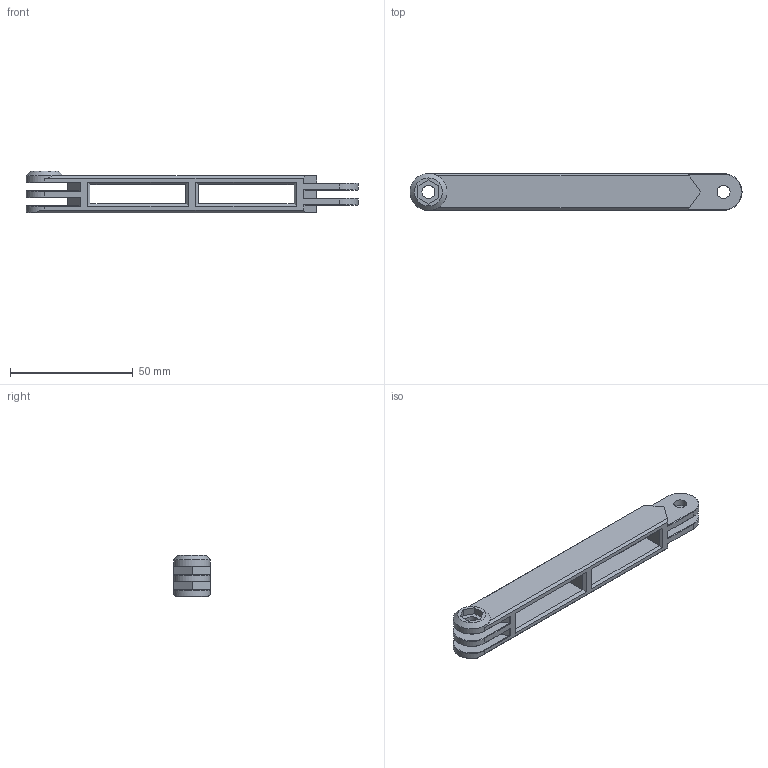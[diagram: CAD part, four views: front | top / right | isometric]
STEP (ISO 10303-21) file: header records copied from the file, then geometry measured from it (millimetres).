
FILE_DESCRIPTION(/* description */ ('STEP AP214'),/* implementation_level */ '2;1');
FILE_NAME(/* name */ '60a1430025d25912eeacade7',/* time_stamp */ '2021-05-16T16:06:26+00:00',/* author */ (''),/* organization */ (''),/* preprocessor_version */ 'ST-DEVELOPER v18.1',/* originating_system */ ' ',/* authorisation */ ' ');
FILE_SCHEMA (('AUTOMOTIVE_DESIGN {1 0 10303 214 3 1 1}'));
Length unit declared in the file: metre
Products named in the file (1): Arm Straight
Bounding box: 135 x 15 x 16.8 mm (x, y, z)
Volume: 15602.3 mm3; surface area: 10506.4 mm2
Topology: 1 solids, 1 shells, 104 faces, 274 edges, 173 vertices
Faces by surface type: plane 84, cylinder 10, cone 10
Full cylindrical faces by diameter (mm): 5.3 x5
Entity records: 3117 total; most frequent: CARTESIAN_POINT 540, ORIENTED_EDGE 524, DIRECTION 505, EDGE_CURVE 262, LINE 225, VECTOR 225, VERTEX_POINT 167, AXIS2_PLACEMENT_3D 140
